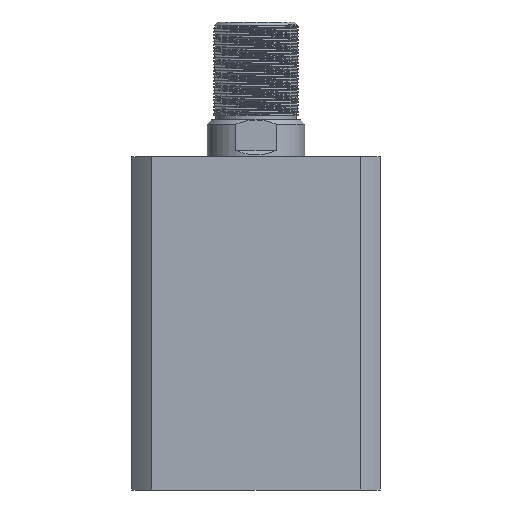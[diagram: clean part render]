
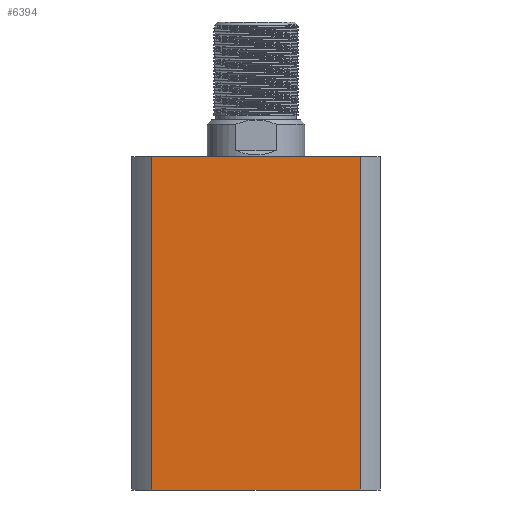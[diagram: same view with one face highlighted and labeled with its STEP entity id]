
A CAD part, left-side view. The second image highlights one B-rep face of the part: STEP entity #6394.
In plain terms, the highlighted planar face has unit normal (-1, 0, 0).
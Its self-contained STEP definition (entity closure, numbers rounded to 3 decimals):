
#785 = VERTEX_POINT ( 'NONE', #13512 ) ;
#887 = CARTESIAN_POINT ( 'NONE',  ( -57., 57., 153. ) ) ;
#1155 = LINE ( 'NONE', #7530, #4827 ) ;
#1980 = VERTEX_POINT ( 'NONE', #3069 ) ;
#3069 = CARTESIAN_POINT ( 'NONE',  ( -57., -47.971, 153. ) ) ;
#3168 = VECTOR ( 'NONE', #4407, 1000. ) ;
#4407 = DIRECTION ( 'NONE',  ( 0., -1., 0. ) ) ;
#4763 = EDGE_CURVE ( 'NONE', #14835, #785, #10561, .T. ) ;
#4827 = VECTOR ( 'NONE', #10774, 1000. ) ;
#5570 = EDGE_CURVE ( 'NONE', #14835, #5665, #18108, .T. ) ;
#5645 = DIRECTION ( 'NONE',  ( 0., 1., 0. ) ) ;
#5665 = VERTEX_POINT ( 'NONE', #11560 ) ;
#5896 = DIRECTION ( 'NONE',  ( 0., -1., 0. ) ) ;
#6272 = VECTOR ( 'NONE', #5896, 1000. ) ;
#6394 = ADVANCED_FACE ( 'NONE', ( #9039 ), #10464, .F. ) ;
#7530 = CARTESIAN_POINT ( 'NONE',  ( -57., -47.971, -2847. ) ) ;
#7538 = CARTESIAN_POINT ( 'NONE',  ( -57., 57., 0. ) ) ;
#8336 = EDGE_CURVE ( 'NONE', #5665, #1980, #19476, .T. ) ;
#8492 = ORIENTED_EDGE ( 'NONE', *, *, #4763, .T. ) ;
#9039 = FACE_OUTER_BOUND ( 'NONE', #10074, .T. ) ;
#10074 = EDGE_LOOP ( 'NONE', ( #19518, #8492, #13688, #15166 ) ) ;
#10295 = VECTOR ( 'NONE', #16752, 1000. ) ;
#10464 = PLANE ( 'NONE',  #17815 ) ;
#10561 = LINE ( 'NONE', #7538, #6272 ) ;
#10774 = DIRECTION ( 'NONE',  ( 0., 0., -1. ) ) ;
#11453 = EDGE_CURVE ( 'NONE', #1980, #785, #1155, .T. ) ;
#11560 = CARTESIAN_POINT ( 'NONE',  ( -57., 47.971, 153. ) ) ;
#13512 = CARTESIAN_POINT ( 'NONE',  ( -57., -47.971, 0. ) ) ;
#13688 = ORIENTED_EDGE ( 'NONE', *, *, #11453, .F. ) ;
#14835 = VERTEX_POINT ( 'NONE', #17808 ) ;
#15109 = CARTESIAN_POINT ( 'NONE',  ( -57., 47.971, -2847. ) ) ;
#15166 = ORIENTED_EDGE ( 'NONE', *, *, #8336, .F. ) ;
#15190 = DIRECTION ( 'NONE',  ( 1., 0., 0. ) ) ;
#15550 = CARTESIAN_POINT ( 'NONE',  ( -57., 57., 153. ) ) ;
#16752 = DIRECTION ( 'NONE',  ( 0., 0., 1. ) ) ;
#17808 = CARTESIAN_POINT ( 'NONE',  ( -57., 47.971, 0. ) ) ;
#17815 = AXIS2_PLACEMENT_3D ( 'NONE', #887, #15190, #5645 ) ;
#18108 = LINE ( 'NONE', #15109, #10295 ) ;
#19476 = LINE ( 'NONE', #15550, #3168 ) ;
#19518 = ORIENTED_EDGE ( 'NONE', *, *, #5570, .F. ) ;
